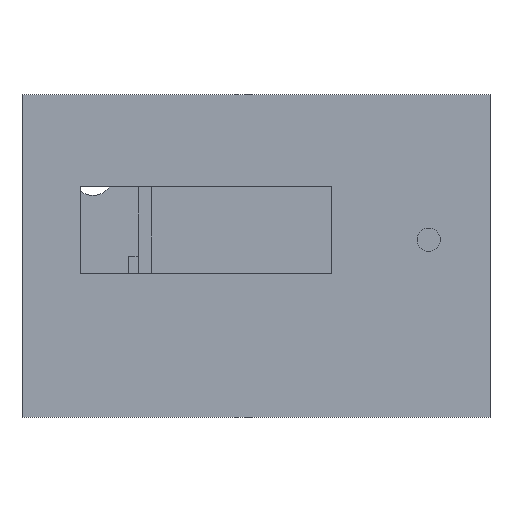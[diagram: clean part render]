
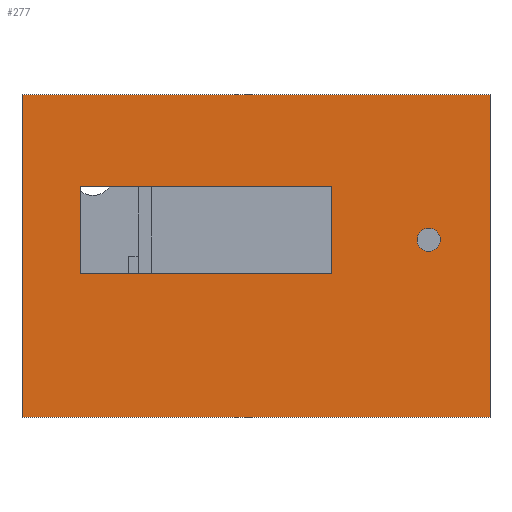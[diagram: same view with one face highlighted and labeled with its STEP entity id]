
A CAD part, front view. The second image highlights one B-rep face of the part: STEP entity #277.
In plain terms, the highlighted planar face has unit normal (0, -1, 0).
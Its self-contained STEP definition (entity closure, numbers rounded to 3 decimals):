
#47 = EDGE_CURVE('',#48,#50,#52,.T.);
#48 = VERTEX_POINT('',#49);
#49 = CARTESIAN_POINT('',(0.,0.,0.));
#50 = VERTEX_POINT('',#51);
#51 = CARTESIAN_POINT('',(0.,0.,100.));
#52 = SURFACE_CURVE('',#53,(#57,#69),.PCURVE_S1.);
#53 = LINE('',#54,#55);
#54 = CARTESIAN_POINT('',(0.,0.,0.));
#55 = VECTOR('',#56,1.);
#56 = DIRECTION('',(0.,0.,1.));
#57 = PCURVE('',#58,#63);
#58 = PLANE('',#59);
#59 = AXIS2_PLACEMENT_3D('',#60,#61,#62);
#60 = CARTESIAN_POINT('',(0.,0.,0.));
#61 = DIRECTION('',(1.,0.,0.));
#62 = DIRECTION('',(0.,0.,1.));
#63 = DEFINITIONAL_REPRESENTATION('',(#64),#68);
#64 = LINE('',#65,#66);
#65 = CARTESIAN_POINT('',(0.,0.));
#66 = VECTOR('',#67,1.);
#67 = DIRECTION('',(1.,0.));
#68 = ( GEOMETRIC_REPRESENTATION_CONTEXT(2) 
PARAMETRIC_REPRESENTATION_CONTEXT() REPRESENTATION_CONTEXT('2D SPACE',''
  ) );
#69 = PCURVE('',#70,#75);
#70 = PLANE('',#71);
#71 = AXIS2_PLACEMENT_3D('',#72,#73,#74);
#72 = CARTESIAN_POINT('',(0.,0.,0.));
#73 = DIRECTION('',(0.,1.,0.));
#74 = DIRECTION('',(0.,0.,1.));
#75 = DEFINITIONAL_REPRESENTATION('',(#76),#80);
#76 = LINE('',#77,#78);
#77 = CARTESIAN_POINT('',(0.,0.));
#78 = VECTOR('',#79,1.);
#79 = DIRECTION('',(1.,0.));
#80 = ( GEOMETRIC_REPRESENTATION_CONTEXT(2) 
PARAMETRIC_REPRESENTATION_CONTEXT() REPRESENTATION_CONTEXT('2D SPACE',''
  ) );
#98 = PLANE('',#99);
#99 = AXIS2_PLACEMENT_3D('',#100,#101,#102);
#100 = CARTESIAN_POINT('',(0.,0.,0.));
#101 = DIRECTION('',(0.,0.,1.));
#102 = DIRECTION('',(1.,0.,0.));
#152 = PLANE('',#153);
#153 = AXIS2_PLACEMENT_3D('',#154,#155,#156);
#154 = CARTESIAN_POINT('',(0.,0.,100.));
#155 = DIRECTION('',(0.,0.,1.));
#156 = DIRECTION('',(1.,0.,0.));
#277 = ADVANCED_FACE('',(#278,#353,#467),#70,.F.);
#278 = FACE_BOUND('',#279,.F.);
#279 = EDGE_LOOP('',(#280,#303,#304,#327));
#280 = ORIENTED_EDGE('',*,*,#281,.F.);
#281 = EDGE_CURVE('',#48,#282,#284,.T.);
#282 = VERTEX_POINT('',#283);
#283 = CARTESIAN_POINT('',(145.,0.,0.));
#284 = SURFACE_CURVE('',#285,(#289,#296),.PCURVE_S1.);
#285 = LINE('',#286,#287);
#286 = CARTESIAN_POINT('',(0.,0.,0.));
#287 = VECTOR('',#288,1.);
#288 = DIRECTION('',(1.,0.,0.));
#289 = PCURVE('',#70,#290);
#290 = DEFINITIONAL_REPRESENTATION('',(#291),#295);
#291 = LINE('',#292,#293);
#292 = CARTESIAN_POINT('',(0.,0.));
#293 = VECTOR('',#294,1.);
#294 = DIRECTION('',(0.,1.));
#295 = ( GEOMETRIC_REPRESENTATION_CONTEXT(2) 
PARAMETRIC_REPRESENTATION_CONTEXT() REPRESENTATION_CONTEXT('2D SPACE',''
  ) );
#296 = PCURVE('',#98,#297);
#297 = DEFINITIONAL_REPRESENTATION('',(#298),#302);
#298 = LINE('',#299,#300);
#299 = CARTESIAN_POINT('',(0.,0.));
#300 = VECTOR('',#301,1.);
#301 = DIRECTION('',(1.,0.));
#302 = ( GEOMETRIC_REPRESENTATION_CONTEXT(2) 
PARAMETRIC_REPRESENTATION_CONTEXT() REPRESENTATION_CONTEXT('2D SPACE',''
  ) );
#303 = ORIENTED_EDGE('',*,*,#47,.T.);
#304 = ORIENTED_EDGE('',*,*,#305,.T.);
#305 = EDGE_CURVE('',#50,#306,#308,.T.);
#306 = VERTEX_POINT('',#307);
#307 = CARTESIAN_POINT('',(145.,0.,100.));
#308 = SURFACE_CURVE('',#309,(#313,#320),.PCURVE_S1.);
#309 = LINE('',#310,#311);
#310 = CARTESIAN_POINT('',(0.,0.,100.));
#311 = VECTOR('',#312,1.);
#312 = DIRECTION('',(1.,0.,0.));
#313 = PCURVE('',#70,#314);
#314 = DEFINITIONAL_REPRESENTATION('',(#315),#319);
#315 = LINE('',#316,#317);
#316 = CARTESIAN_POINT('',(100.,0.));
#317 = VECTOR('',#318,1.);
#318 = DIRECTION('',(0.,1.));
#319 = ( GEOMETRIC_REPRESENTATION_CONTEXT(2) 
PARAMETRIC_REPRESENTATION_CONTEXT() REPRESENTATION_CONTEXT('2D SPACE',''
  ) );
#320 = PCURVE('',#152,#321);
#321 = DEFINITIONAL_REPRESENTATION('',(#322),#326);
#322 = LINE('',#323,#324);
#323 = CARTESIAN_POINT('',(0.,0.));
#324 = VECTOR('',#325,1.);
#325 = DIRECTION('',(1.,0.));
#326 = ( GEOMETRIC_REPRESENTATION_CONTEXT(2) 
PARAMETRIC_REPRESENTATION_CONTEXT() REPRESENTATION_CONTEXT('2D SPACE',''
  ) );
#327 = ORIENTED_EDGE('',*,*,#328,.F.);
#328 = EDGE_CURVE('',#282,#306,#329,.T.);
#329 = SURFACE_CURVE('',#330,(#334,#341),.PCURVE_S1.);
#330 = LINE('',#331,#332);
#331 = CARTESIAN_POINT('',(145.,0.,0.));
#332 = VECTOR('',#333,1.);
#333 = DIRECTION('',(0.,0.,1.));
#334 = PCURVE('',#70,#335);
#335 = DEFINITIONAL_REPRESENTATION('',(#336),#340);
#336 = LINE('',#337,#338);
#337 = CARTESIAN_POINT('',(0.,145.));
#338 = VECTOR('',#339,1.);
#339 = DIRECTION('',(1.,0.));
#340 = ( GEOMETRIC_REPRESENTATION_CONTEXT(2) 
PARAMETRIC_REPRESENTATION_CONTEXT() REPRESENTATION_CONTEXT('2D SPACE',''
  ) );
#341 = PCURVE('',#342,#347);
#342 = PLANE('',#343);
#343 = AXIS2_PLACEMENT_3D('',#344,#345,#346);
#344 = CARTESIAN_POINT('',(145.,0.,0.));
#345 = DIRECTION('',(1.,0.,0.));
#346 = DIRECTION('',(0.,0.,1.));
#347 = DEFINITIONAL_REPRESENTATION('',(#348),#352);
#348 = LINE('',#349,#350);
#349 = CARTESIAN_POINT('',(0.,0.));
#350 = VECTOR('',#351,1.);
#351 = DIRECTION('',(1.,0.));
#352 = ( GEOMETRIC_REPRESENTATION_CONTEXT(2) 
PARAMETRIC_REPRESENTATION_CONTEXT() REPRESENTATION_CONTEXT('2D SPACE',''
  ) );
#353 = FACE_BOUND('',#354,.F.);
#354 = EDGE_LOOP('',(#355,#385,#413,#441));
#355 = ORIENTED_EDGE('',*,*,#356,.F.);
#356 = EDGE_CURVE('',#357,#359,#361,.T.);
#357 = VERTEX_POINT('',#358);
#358 = CARTESIAN_POINT('',(18.,0.,71.5));
#359 = VERTEX_POINT('',#360);
#360 = CARTESIAN_POINT('',(96.,0.,71.5));
#361 = SURFACE_CURVE('',#362,(#366,#373),.PCURVE_S1.);
#362 = LINE('',#363,#364);
#363 = CARTESIAN_POINT('',(9.,0.,71.5));
#364 = VECTOR('',#365,1.);
#365 = DIRECTION('',(1.,0.,0.));
#366 = PCURVE('',#70,#367);
#367 = DEFINITIONAL_REPRESENTATION('',(#368),#372);
#368 = LINE('',#369,#370);
#369 = CARTESIAN_POINT('',(71.5,9.));
#370 = VECTOR('',#371,1.);
#371 = DIRECTION('',(0.,1.));
#372 = ( GEOMETRIC_REPRESENTATION_CONTEXT(2) 
PARAMETRIC_REPRESENTATION_CONTEXT() REPRESENTATION_CONTEXT('2D SPACE',''
  ) );
#373 = PCURVE('',#374,#379);
#374 = PLANE('',#375);
#375 = AXIS2_PLACEMENT_3D('',#376,#377,#378);
#376 = CARTESIAN_POINT('',(18.,-0.1,71.5));
#377 = DIRECTION('',(0.,0.,1.));
#378 = DIRECTION('',(1.,0.,0.));
#379 = DEFINITIONAL_REPRESENTATION('',(#380),#384);
#380 = LINE('',#381,#382);
#381 = CARTESIAN_POINT('',(-9.,0.1));
#382 = VECTOR('',#383,1.);
#383 = DIRECTION('',(1.,0.));
#384 = ( GEOMETRIC_REPRESENTATION_CONTEXT(2) 
PARAMETRIC_REPRESENTATION_CONTEXT() REPRESENTATION_CONTEXT('2D SPACE',''
  ) );
#385 = ORIENTED_EDGE('',*,*,#386,.T.);
#386 = EDGE_CURVE('',#357,#387,#389,.T.);
#387 = VERTEX_POINT('',#388);
#388 = CARTESIAN_POINT('',(18.,0.,44.5));
#389 = SURFACE_CURVE('',#390,(#394,#401),.PCURVE_S1.);
#390 = LINE('',#391,#392);
#391 = CARTESIAN_POINT('',(18.,0.,22.25));
#392 = VECTOR('',#393,1.);
#393 = DIRECTION('',(0.,0.,-1.));
#394 = PCURVE('',#70,#395);
#395 = DEFINITIONAL_REPRESENTATION('',(#396),#400);
#396 = LINE('',#397,#398);
#397 = CARTESIAN_POINT('',(22.25,18.));
#398 = VECTOR('',#399,1.);
#399 = DIRECTION('',(-1.,0.));
#400 = ( GEOMETRIC_REPRESENTATION_CONTEXT(2) 
PARAMETRIC_REPRESENTATION_CONTEXT() REPRESENTATION_CONTEXT('2D SPACE',''
  ) );
#401 = PCURVE('',#402,#407);
#402 = PLANE('',#403);
#403 = AXIS2_PLACEMENT_3D('',#404,#405,#406);
#404 = CARTESIAN_POINT('',(18.,-0.1,44.5));
#405 = DIRECTION('',(1.,0.,0.));
#406 = DIRECTION('',(0.,0.,1.));
#407 = DEFINITIONAL_REPRESENTATION('',(#408),#412);
#408 = LINE('',#409,#410);
#409 = CARTESIAN_POINT('',(-22.25,-0.1));
#410 = VECTOR('',#411,1.);
#411 = DIRECTION('',(-1.,0.));
#412 = ( GEOMETRIC_REPRESENTATION_CONTEXT(2) 
PARAMETRIC_REPRESENTATION_CONTEXT() REPRESENTATION_CONTEXT('2D SPACE',''
  ) );
#413 = ORIENTED_EDGE('',*,*,#414,.T.);
#414 = EDGE_CURVE('',#387,#415,#417,.T.);
#415 = VERTEX_POINT('',#416);
#416 = CARTESIAN_POINT('',(96.,0.,44.5));
#417 = SURFACE_CURVE('',#418,(#422,#429),.PCURVE_S1.);
#418 = LINE('',#419,#420);
#419 = CARTESIAN_POINT('',(9.,0.,44.5));
#420 = VECTOR('',#421,1.);
#421 = DIRECTION('',(1.,0.,0.));
#422 = PCURVE('',#70,#423);
#423 = DEFINITIONAL_REPRESENTATION('',(#424),#428);
#424 = LINE('',#425,#426);
#425 = CARTESIAN_POINT('',(44.5,9.));
#426 = VECTOR('',#427,1.);
#427 = DIRECTION('',(0.,1.));
#428 = ( GEOMETRIC_REPRESENTATION_CONTEXT(2) 
PARAMETRIC_REPRESENTATION_CONTEXT() REPRESENTATION_CONTEXT('2D SPACE',''
  ) );
#429 = PCURVE('',#430,#435);
#430 = PLANE('',#431);
#431 = AXIS2_PLACEMENT_3D('',#432,#433,#434);
#432 = CARTESIAN_POINT('',(18.,-0.1,44.5));
#433 = DIRECTION('',(0.,0.,1.));
#434 = DIRECTION('',(1.,0.,0.));
#435 = DEFINITIONAL_REPRESENTATION('',(#436),#440);
#436 = LINE('',#437,#438);
#437 = CARTESIAN_POINT('',(-9.,0.1));
#438 = VECTOR('',#439,1.);
#439 = DIRECTION('',(1.,0.));
#440 = ( GEOMETRIC_REPRESENTATION_CONTEXT(2) 
PARAMETRIC_REPRESENTATION_CONTEXT() REPRESENTATION_CONTEXT('2D SPACE',''
  ) );
#441 = ORIENTED_EDGE('',*,*,#442,.F.);
#442 = EDGE_CURVE('',#359,#415,#443,.T.);
#443 = SURFACE_CURVE('',#444,(#448,#455),.PCURVE_S1.);
#444 = LINE('',#445,#446);
#445 = CARTESIAN_POINT('',(96.,0.,22.25));
#446 = VECTOR('',#447,1.);
#447 = DIRECTION('',(0.,0.,-1.));
#448 = PCURVE('',#70,#449);
#449 = DEFINITIONAL_REPRESENTATION('',(#450),#454);
#450 = LINE('',#451,#452);
#451 = CARTESIAN_POINT('',(22.25,96.));
#452 = VECTOR('',#453,1.);
#453 = DIRECTION('',(-1.,0.));
#454 = ( GEOMETRIC_REPRESENTATION_CONTEXT(2) 
PARAMETRIC_REPRESENTATION_CONTEXT() REPRESENTATION_CONTEXT('2D SPACE',''
  ) );
#455 = PCURVE('',#456,#461);
#456 = PLANE('',#457);
#457 = AXIS2_PLACEMENT_3D('',#458,#459,#460);
#458 = CARTESIAN_POINT('',(96.,-0.1,44.5));
#459 = DIRECTION('',(1.,0.,0.));
#460 = DIRECTION('',(0.,0.,1.));
#461 = DEFINITIONAL_REPRESENTATION('',(#462),#466);
#462 = LINE('',#463,#464);
#463 = CARTESIAN_POINT('',(-22.25,-0.1));
#464 = VECTOR('',#465,1.);
#465 = DIRECTION('',(-1.,0.));
#466 = ( GEOMETRIC_REPRESENTATION_CONTEXT(2) 
PARAMETRIC_REPRESENTATION_CONTEXT() REPRESENTATION_CONTEXT('2D SPACE',''
  ) );
#467 = FACE_BOUND('',#468,.F.);
#468 = EDGE_LOOP('',(#469));
#469 = ORIENTED_EDGE('',*,*,#470,.F.);
#470 = EDGE_CURVE('',#471,#471,#473,.T.);
#471 = VERTEX_POINT('',#472);
#472 = CARTESIAN_POINT('',(126.,0.,58.6));
#473 = SURFACE_CURVE('',#474,(#479,#486),.PCURVE_S1.);
#474 = CIRCLE('',#475,3.6);
#475 = AXIS2_PLACEMENT_3D('',#476,#477,#478);
#476 = CARTESIAN_POINT('',(126.,0.,55.));
#477 = DIRECTION('',(0.,1.,0.));
#478 = DIRECTION('',(0.,-0.,1.));
#479 = PCURVE('',#70,#480);
#480 = DEFINITIONAL_REPRESENTATION('',(#481),#485);
#481 = CIRCLE('',#482,3.6);
#482 = AXIS2_PLACEMENT_2D('',#483,#484);
#483 = CARTESIAN_POINT('',(55.,126.));
#484 = DIRECTION('',(1.,0.));
#485 = ( GEOMETRIC_REPRESENTATION_CONTEXT(2) 
PARAMETRIC_REPRESENTATION_CONTEXT() REPRESENTATION_CONTEXT('2D SPACE',''
  ) );
#486 = PCURVE('',#487,#492);
#487 = CYLINDRICAL_SURFACE('',#488,3.6);
#488 = AXIS2_PLACEMENT_3D('',#489,#490,#491);
#489 = CARTESIAN_POINT('',(126.,-0.1,55.));
#490 = DIRECTION('',(0.,1.,0.));
#491 = DIRECTION('',(0.,-0.,1.));
#492 = DEFINITIONAL_REPRESENTATION('',(#493),#497);
#493 = LINE('',#494,#495);
#494 = CARTESIAN_POINT('',(0.,0.1));
#495 = VECTOR('',#496,1.);
#496 = DIRECTION('',(1.,0.));
#497 = ( GEOMETRIC_REPRESENTATION_CONTEXT(2) 
PARAMETRIC_REPRESENTATION_CONTEXT() REPRESENTATION_CONTEXT('2D SPACE',''
  ) );
